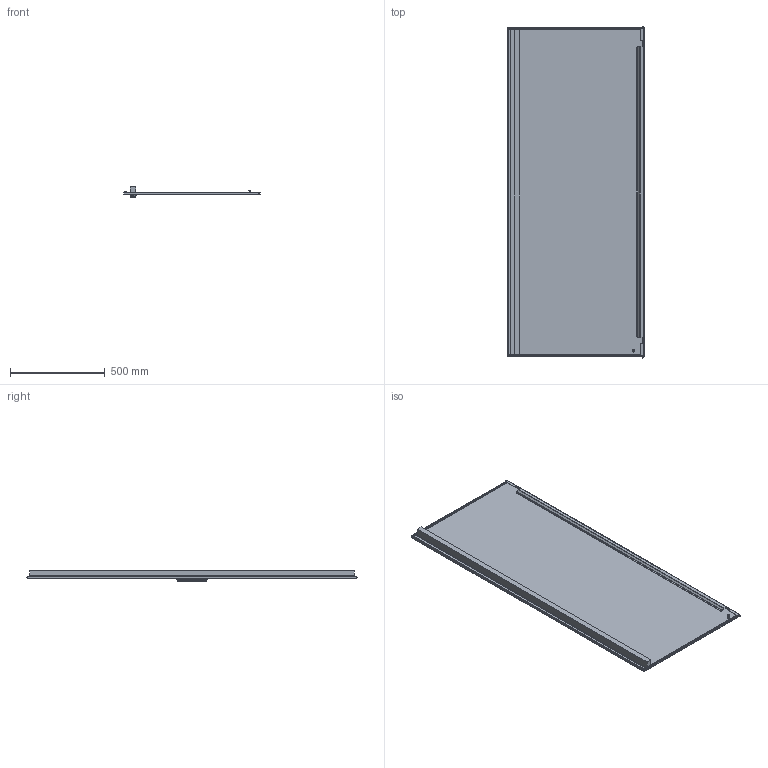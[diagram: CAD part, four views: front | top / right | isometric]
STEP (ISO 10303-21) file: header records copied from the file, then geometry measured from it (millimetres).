
FILE_DESCRIPTION (( 'STEP AP203' ), '1' );
FILE_NAME ('D 180.80 I Äâåðü òåëåêîììóíèêàöèîííàÿ.STEP', '2013-01-11T17:57:47', ( '' ), ( '' ), 'SwSTEP 2.0', 'SolidWorks 2012', '' );
FILE_SCHEMA (( 'CONFIG_CONTROL_DESIGN' ));
Length unit declared in the file: millimetre
Products named in the file (1): D 180.80 I Äâåðü òåëåêîììóíèêàöèîííàÿ
Bounding box: 718 x 1750.5 x 55 mm (x, y, z)
Volume: 4225949.8 mm3; surface area: 2933282.6 mm2
Topology: 3 solids, 3 shells, 175 faces, 406 edges, 226 vertices
Faces by surface type: cylinder 70, plane 65, sphere 24, cone 12, torus 4
Entity records: 4827 total; most frequent: DIRECTION 900, CARTESIAN_POINT 788, ORIENTED_EDGE 772, EDGE_CURVE 386, AXIS2_PLACEMENT_3D 338, VERTEX_POINT 226, VECTOR 224, LINE 224
